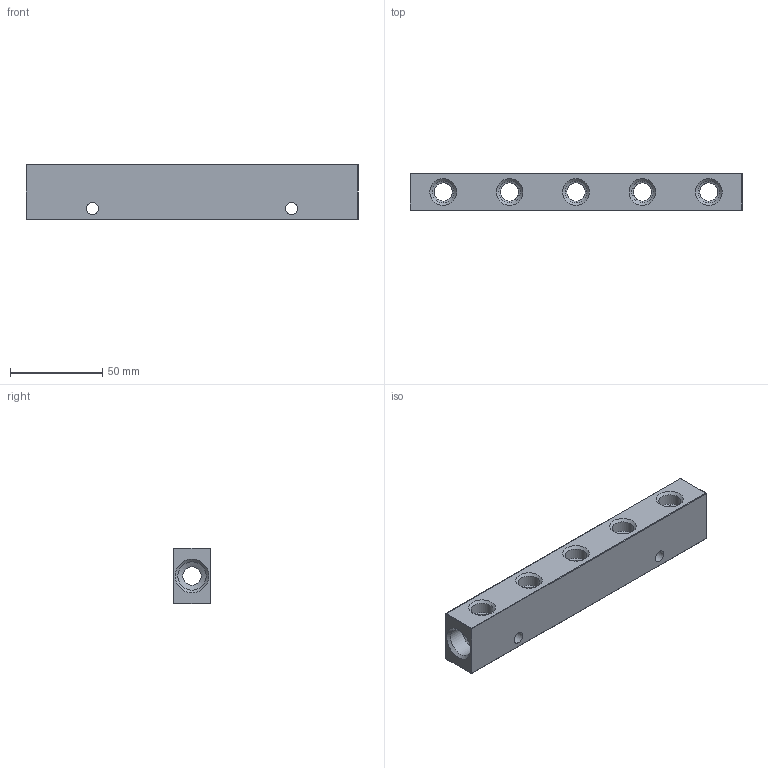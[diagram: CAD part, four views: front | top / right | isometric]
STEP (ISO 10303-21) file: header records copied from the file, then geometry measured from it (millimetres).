
FILE_DESCRIPTION(/* description */ (''),/* implementation_level */ '2;1');
FILE_NAME(/* name */ 'S:\_Tecnico\ArchivioUT\_Disegni3D ingombri\DISEGNI 3D per ingombri\RL\RL52381455.stp',/* time_stamp */ '2020-02-20T14:36:44+01:00',/* author */ ('UfficioTecnico'),/* organization */ (''),/* preprocessor_version */ 'ST-DEVELOPER v18',/* originating_system */ 'Autodesk Inventor 2020',/* authorisation */ '');
FILE_SCHEMA (('AUTOMOTIVE_DESIGN { 1 0 10303 214 3 1 1 }'));
Length unit declared in the file: millimetre
Products named in the file (1): RL51381405
Bounding box: 180 x 20 x 30 mm (x, y, z)
Volume: 78714.1 mm3; surface area: 27499.1 mm2
Topology: 1 solids, 1 shells, 80 faces, 208 edges, 120 vertices
Faces by surface type: cylinder 42, cone 24, sphere 8, plane 6
Full cylindrical faces by diameter (mm): 6.5 x2, 10 x16, 11.89 x10, 15.395 x2
Entity records: 2547 total; most frequent: DIRECTION 500, ORIENTED_EDGE 416, CARTESIAN_POINT 409, AXIS2_PLACEMENT_3D 211, EDGE_CURVE 208, VERTEX_POINT 120, CIRCLE 100, EDGE_LOOP 96
